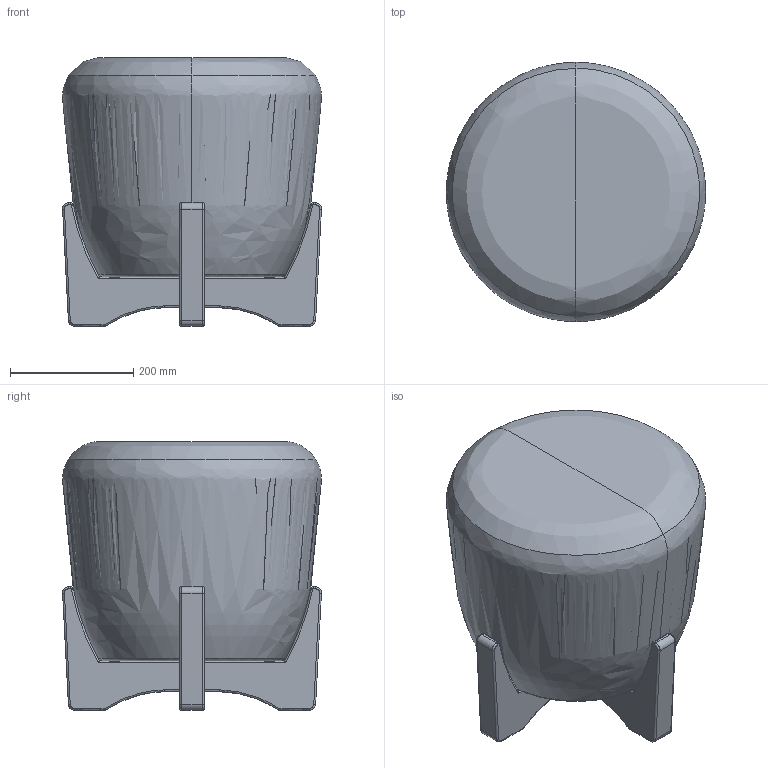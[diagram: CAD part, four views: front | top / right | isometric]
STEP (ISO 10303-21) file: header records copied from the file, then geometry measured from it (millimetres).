
FILE_DESCRIPTION(/* description */ (''),/* implementation_level */ '2;1');
FILE_NAME(/* name */ 'KINOSH~1',/* time_stamp */ '2024-05-27T18:35:50+09:00',/* author */ (''),/* organization */ (''),/* preprocessor_version */ 'ST-DEVELOPER v16.5',/* originating_system */ '',/* authorisation */ '');
FILE_SCHEMA (('AUTOMOTIVE_DESIGN'));
Length unit declared in the file: millimetre
Products named in the file (1): Document
Bounding box: 419.94 x 419.94 x 435 mm (x, y, z)
Volume: 29677201.6 mm3; surface area: 617466.4 mm2
Topology: 2 solids, 2 shells, 136 faces, 308 edges, 172 vertices
Faces by surface type: bspline 128, plane 8
Entity records: 4227 total; most frequent: CARTESIAN_POINT 2641, ORIENTED_EDGE 608, EDGE_CURVE 304, VERTEX_POINT 172, ADVANCED_FACE 136, FACE_OUTER_BOUND 136, EDGE_LOOP 136, B_SPLINE_CURVE_WITH_KNOTS 42
